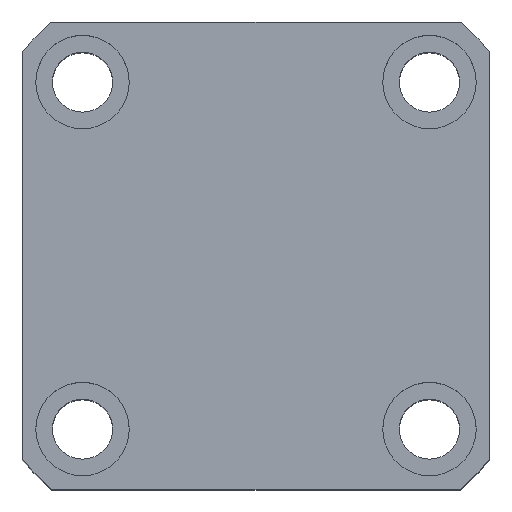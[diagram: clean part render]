
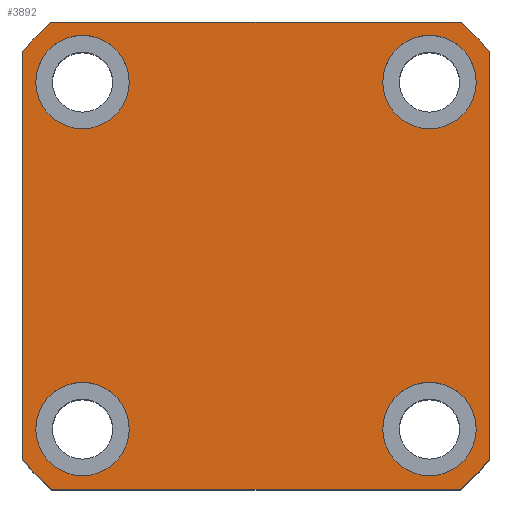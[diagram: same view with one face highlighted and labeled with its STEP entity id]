
A CAD part, top view. The second image highlights one B-rep face of the part: STEP entity #3892.
In plain terms, the highlighted planar face has unit normal (0, 0, 1).
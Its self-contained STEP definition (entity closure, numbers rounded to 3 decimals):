
#18 = CIRCLE ( 'NONE', #5176, 7. ) ;
#79 = DIRECTION ( 'NONE',  ( 1., 0., 0. ) ) ;
#335 = CARTESIAN_POINT ( 'NONE',  ( 26., 26., 80. ) ) ;
#358 = EDGE_CURVE ( 'NONE', #9998, #8160, #808, .T. ) ;
#361 = ORIENTED_EDGE ( 'NONE', *, *, #8049, .T. ) ;
#426 = DIRECTION ( 'NONE',  ( 1., 0., 0. ) ) ;
#522 = ORIENTED_EDGE ( 'NONE', *, *, #6357, .T. ) ;
#537 = ORIENTED_EDGE ( 'NONE', *, *, #12632, .F. ) ;
#539 = CARTESIAN_POINT ( 'NONE',  ( -19., -26., 80. ) ) ;
#545 = AXIS2_PLACEMENT_3D ( 'NONE', #12733, #6420, #79 ) ;
#645 = AXIS2_PLACEMENT_3D ( 'NONE', #335, #7763, #1413 ) ;
#808 = CIRCLE ( 'NONE', #11731, 46.5 ) ;
#927 = CARTESIAN_POINT ( 'NONE',  ( -35., 35., 80. ) ) ;
#943 = VERTEX_POINT ( 'NONE', #3301 ) ;
#954 = LINE ( 'NONE', #927, #6263 ) ;
#1029 = ORIENTED_EDGE ( 'NONE', *, *, #10285, .F. ) ;
#1031 = FACE_BOUND ( 'NONE', #2467, .T. ) ;
#1229 = CARTESIAN_POINT ( 'NONE',  ( -35., -30.615, 80. ) ) ;
#1272 = CARTESIAN_POINT ( 'NONE',  ( 33., -26., 80. ) ) ;
#1298 = VERTEX_POINT ( 'NONE', #9944 ) ;
#1379 = LINE ( 'NONE', #8967, #12279 ) ;
#1407 = EDGE_CURVE ( 'NONE', #10258, #11492, #9564, .T. ) ;
#1413 = DIRECTION ( 'NONE',  ( 1., 0., 0. ) ) ;
#1501 = DIRECTION ( 'NONE',  ( 0., 0., 1. ) ) ;
#1724 = FACE_BOUND ( 'NONE', #9538, .T. ) ;
#1993 = DIRECTION ( 'NONE',  ( 0., 0., 1. ) ) ;
#2078 = EDGE_CURVE ( 'NONE', #943, #9998, #3807, .T. ) ;
#2230 = CARTESIAN_POINT ( 'NONE',  ( -30.615, 35., 80. ) ) ;
#2249 = AXIS2_PLACEMENT_3D ( 'NONE', #8321, #1993, #9358 ) ;
#2303 = ORIENTED_EDGE ( 'NONE', *, *, #9904, .F. ) ;
#2467 = EDGE_LOOP ( 'NONE', ( #6147, #11526 ) ) ;
#2569 = CARTESIAN_POINT ( 'NONE',  ( 33., 26., 80. ) ) ;
#2623 = EDGE_LOOP ( 'NONE', ( #11817, #522, #361, #6414, #6344, #10783, #12543, #6525 ) ) ;
#2784 = VERTEX_POINT ( 'NONE', #4435 ) ;
#2832 = CARTESIAN_POINT ( 'NONE',  ( 26., -26., 80. ) ) ;
#3237 = CARTESIAN_POINT ( 'NONE',  ( -35., -35., 80. ) ) ;
#3301 = CARTESIAN_POINT ( 'NONE',  ( -30.615, -35., 80. ) ) ;
#3359 = VECTOR ( 'NONE', #3741, 1000. ) ;
#3375 = VERTEX_POINT ( 'NONE', #2569 ) ;
#3396 = CARTESIAN_POINT ( 'NONE',  ( -26., -26., 80. ) ) ;
#3418 = CARTESIAN_POINT ( 'NONE',  ( 26., 26., 80. ) ) ;
#3643 = DIRECTION ( 'NONE',  ( 0., 0., 1. ) ) ;
#3741 = DIRECTION ( 'NONE',  ( -1., 0., 0. ) ) ;
#3761 = PLANE ( 'NONE',  #8611 ) ;
#3807 = LINE ( 'NONE', #3237, #6614 ) ;
#3809 = EDGE_CURVE ( 'NONE', #8160, #10961, #1379, .T. ) ;
#3813 = DIRECTION ( 'NONE',  ( 0., 0., 1. ) ) ;
#3850 = EDGE_LOOP ( 'NONE', ( #5519, #7476 ) ) ;
#3892 = ADVANCED_FACE ( 'NONE', ( #9471, #1724, #1031, #6693, #9141 ), #3761, .T. ) ;
#3902 = DIRECTION ( 'NONE',  ( 1., 0., 0. ) ) ;
#4064 = CARTESIAN_POINT ( 'NONE',  ( 35., -30.615, 80. ) ) ;
#4109 = EDGE_CURVE ( 'NONE', #11492, #10258, #10958, .T. ) ;
#4238 = CARTESIAN_POINT ( 'NONE',  ( 26., -26., 80. ) ) ;
#4279 = DIRECTION ( 'NONE',  ( 1., 0., 0. ) ) ;
#4312 = CIRCLE ( 'NONE', #8227, 7. ) ;
#4318 = EDGE_CURVE ( 'NONE', #10923, #9938, #4348, .T. ) ;
#4328 = CIRCLE ( 'NONE', #645, 7. ) ;
#4348 = CIRCLE ( 'NONE', #6948, 7. ) ;
#4435 = CARTESIAN_POINT ( 'NONE',  ( -35., 30.615, 80. ) ) ;
#4442 = DIRECTION ( 'NONE',  ( 1., 0., 0. ) ) ;
#4468 = DIRECTION ( 'NONE',  ( 1., 0., 0. ) ) ;
#4517 = CARTESIAN_POINT ( 'NONE',  ( -33., -26., 80. ) ) ;
#4815 = CARTESIAN_POINT ( 'NONE',  ( 0., 0., 80. ) ) ;
#5176 = AXIS2_PLACEMENT_3D ( 'NONE', #3418, #10774, #4468 ) ;
#5206 = DIRECTION ( 'NONE',  ( 0., -1., 0. ) ) ;
#5265 = AXIS2_PLACEMENT_3D ( 'NONE', #10122, #3813, #11168 ) ;
#5287 = DIRECTION ( 'NONE',  ( 1., 0., 0. ) ) ;
#5393 = CARTESIAN_POINT ( 'NONE',  ( -26., -26., 80. ) ) ;
#5442 = CARTESIAN_POINT ( 'NONE',  ( 0., 0., 80. ) ) ;
#5497 = CARTESIAN_POINT ( 'NONE',  ( 30.615, 35., 80. ) ) ;
#5519 = ORIENTED_EDGE ( 'NONE', *, *, #1407, .F. ) ;
#5818 = DIRECTION ( 'NONE',  ( 0., 1., 0. ) ) ;
#5866 = DIRECTION ( 'NONE',  ( 0., 0., 1. ) ) ;
#5960 = AXIS2_PLACEMENT_3D ( 'NONE', #5442, #12838, #6529 ) ;
#6107 = AXIS2_PLACEMENT_3D ( 'NONE', #7863, #1501, #8896 ) ;
#6147 = ORIENTED_EDGE ( 'NONE', *, *, #9014, .F. ) ;
#6263 = VECTOR ( 'NONE', #5206, 1000. ) ;
#6344 = ORIENTED_EDGE ( 'NONE', *, *, #11343, .T. ) ;
#6357 = EDGE_CURVE ( 'NONE', #10961, #12122, #8787, .T. ) ;
#6413 = CIRCLE ( 'NONE', #6107, 46.5 ) ;
#6414 = ORIENTED_EDGE ( 'NONE', *, *, #7310, .T. ) ;
#6420 = DIRECTION ( 'NONE',  ( 0., 0., 1. ) ) ;
#6469 = DIRECTION ( 'NONE',  ( 1., 0., 0. ) ) ;
#6525 = ORIENTED_EDGE ( 'NONE', *, *, #358, .T. ) ;
#6529 = DIRECTION ( 'NONE',  ( 1., 0., 0. ) ) ;
#6570 = CARTESIAN_POINT ( 'NONE',  ( 19., -26., 80. ) ) ;
#6614 = VECTOR ( 'NONE', #4279, 1000. ) ;
#6688 = VERTEX_POINT ( 'NONE', #1229 ) ;
#6693 = FACE_BOUND ( 'NONE', #3850, .T. ) ;
#6948 = AXIS2_PLACEMENT_3D ( 'NONE', #4238, #11597, #5287 ) ;
#7197 = ORIENTED_EDGE ( 'NONE', *, *, #4318, .F. ) ;
#7303 = VERTEX_POINT ( 'NONE', #2230 ) ;
#7310 = EDGE_CURVE ( 'NONE', #7303, #2784, #11891, .T. ) ;
#7476 = ORIENTED_EDGE ( 'NONE', *, *, #4109, .F. ) ;
#7763 = DIRECTION ( 'NONE',  ( 0., 0., 1. ) ) ;
#7863 = CARTESIAN_POINT ( 'NONE',  ( 0., 0., 80. ) ) ;
#8049 = EDGE_CURVE ( 'NONE', #12122, #7303, #11744, .T. ) ;
#8160 = VERTEX_POINT ( 'NONE', #4064 ) ;
#8227 = AXIS2_PLACEMENT_3D ( 'NONE', #2832, #10209, #3902 ) ;
#8321 = CARTESIAN_POINT ( 'NONE',  ( 0., 0., 80. ) ) ;
#8492 = AXIS2_PLACEMENT_3D ( 'NONE', #3396, #10749, #4442 ) ;
#8611 = AXIS2_PLACEMENT_3D ( 'NONE', #4815, #5866, #13268 ) ;
#8701 = EDGE_CURVE ( 'NONE', #1298, #3375, #18, .T. ) ;
#8766 = CARTESIAN_POINT ( 'NONE',  ( 35., 30.615, 80. ) ) ;
#8787 = CIRCLE ( 'NONE', #2249, 46.5 ) ;
#8896 = DIRECTION ( 'NONE',  ( 1., 0., 0. ) ) ;
#8967 = CARTESIAN_POINT ( 'NONE',  ( 35., 35., 80. ) ) ;
#9004 = VERTEX_POINT ( 'NONE', #4517 ) ;
#9014 = EDGE_CURVE ( 'NONE', #3375, #1298, #4328, .T. ) ;
#9104 = CIRCLE ( 'NONE', #8492, 7. ) ;
#9141 = FACE_OUTER_BOUND ( 'NONE', #2623, .T. ) ;
#9358 = DIRECTION ( 'NONE',  ( 1., 0., 0. ) ) ;
#9438 = CARTESIAN_POINT ( 'NONE',  ( -33., 26., 80. ) ) ;
#9471 = FACE_BOUND ( 'NONE', #12366, .T. ) ;
#9538 = EDGE_LOOP ( 'NONE', ( #7197, #1029 ) ) ;
#9564 = CIRCLE ( 'NONE', #5265, 7. ) ;
#9904 = EDGE_CURVE ( 'NONE', #9004, #10137, #9104, .T. ) ;
#9938 = VERTEX_POINT ( 'NONE', #6570 ) ;
#9944 = CARTESIAN_POINT ( 'NONE',  ( 19., 26., 80. ) ) ;
#9998 = VERTEX_POINT ( 'NONE', #11947 ) ;
#10122 = CARTESIAN_POINT ( 'NONE',  ( -26., 26., 80. ) ) ;
#10137 = VERTEX_POINT ( 'NONE', #539 ) ;
#10209 = DIRECTION ( 'NONE',  ( 0., 0., 1. ) ) ;
#10258 = VERTEX_POINT ( 'NONE', #12277 ) ;
#10285 = EDGE_CURVE ( 'NONE', #9938, #10923, #4312, .T. ) ;
#10749 = DIRECTION ( 'NONE',  ( 0., 0., 1. ) ) ;
#10774 = DIRECTION ( 'NONE',  ( 0., 0., 1. ) ) ;
#10783 = ORIENTED_EDGE ( 'NONE', *, *, #13240, .T. ) ;
#10923 = VERTEX_POINT ( 'NONE', #1272 ) ;
#10958 = CIRCLE ( 'NONE', #545, 7. ) ;
#10961 = VERTEX_POINT ( 'NONE', #8766 ) ;
#11055 = CARTESIAN_POINT ( 'NONE',  ( -35., 35., 80. ) ) ;
#11168 = DIRECTION ( 'NONE',  ( 1., 0., 0. ) ) ;
#11343 = EDGE_CURVE ( 'NONE', #2784, #6688, #954, .T. ) ;
#11492 = VERTEX_POINT ( 'NONE', #9438 ) ;
#11526 = ORIENTED_EDGE ( 'NONE', *, *, #8701, .F. ) ;
#11597 = DIRECTION ( 'NONE',  ( 0., 0., 1. ) ) ;
#11731 = AXIS2_PLACEMENT_3D ( 'NONE', #12052, #3643, #426 ) ;
#11744 = LINE ( 'NONE', #11055, #3359 ) ;
#11817 = ORIENTED_EDGE ( 'NONE', *, *, #3809, .T. ) ;
#11891 = CIRCLE ( 'NONE', #5960, 46.5 ) ;
#11947 = CARTESIAN_POINT ( 'NONE',  ( 30.615, -35., 80. ) ) ;
#12052 = CARTESIAN_POINT ( 'NONE',  ( 0., 0., 80. ) ) ;
#12122 = VERTEX_POINT ( 'NONE', #5497 ) ;
#12182 = CIRCLE ( 'NONE', #13011, 7. ) ;
#12277 = CARTESIAN_POINT ( 'NONE',  ( -19., 26., 80. ) ) ;
#12279 = VECTOR ( 'NONE', #5818, 1000. ) ;
#12366 = EDGE_LOOP ( 'NONE', ( #537, #2303 ) ) ;
#12543 = ORIENTED_EDGE ( 'NONE', *, *, #2078, .T. ) ;
#12632 = EDGE_CURVE ( 'NONE', #10137, #9004, #12182, .T. ) ;
#12733 = CARTESIAN_POINT ( 'NONE',  ( -26., 26., 80. ) ) ;
#12797 = DIRECTION ( 'NONE',  ( 0., 0., 1. ) ) ;
#12838 = DIRECTION ( 'NONE',  ( 0., 0., 1. ) ) ;
#13011 = AXIS2_PLACEMENT_3D ( 'NONE', #5393, #12797, #6469 ) ;
#13240 = EDGE_CURVE ( 'NONE', #6688, #943, #6413, .T. ) ;
#13268 = DIRECTION ( 'NONE',  ( 1., 0., 0. ) ) ;
